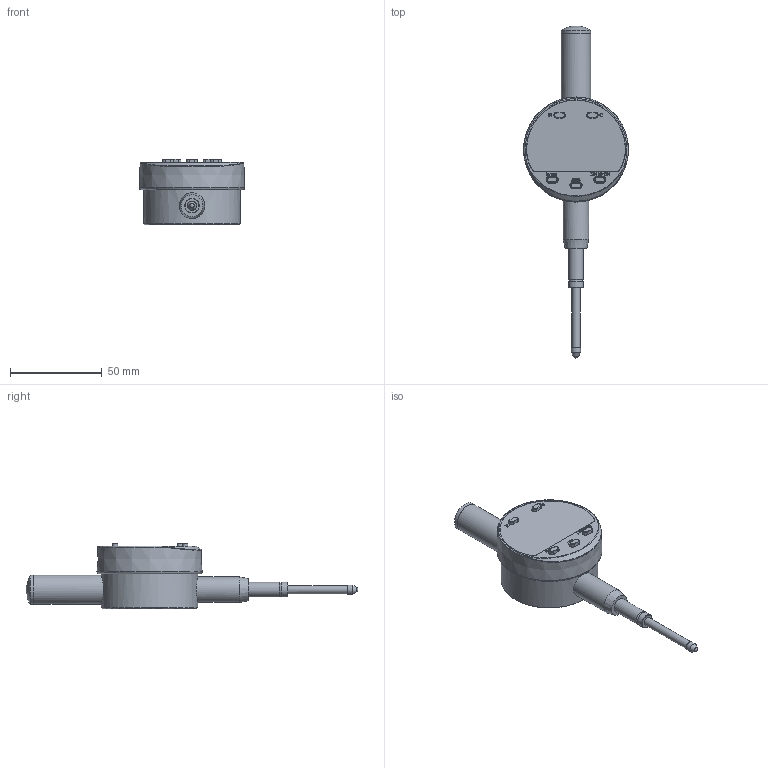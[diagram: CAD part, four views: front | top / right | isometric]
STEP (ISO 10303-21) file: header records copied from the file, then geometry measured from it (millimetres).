
FILE_DESCRIPTION(/* description */ (''),/* implementation_level */ '2;1');
FILE_NAME(/* name */ '量准一寸量表示意图.stp',/* time_stamp */ '2024-05-27T14:16:19+08:00',/* author */ (''),/* organization */ (''),/* preprocessor_version */ 'ST-DEVELOPER v16.7',/* originating_system */ 'SIEMENS PLM Software NX 1919',/* authorisation */ '');
FILE_SCHEMA (('AUTOMOTIVE_DESIGN { 1 0 10303 214 3 1 1 1 }'));
Length unit declared in the file: millimetre
Products named in the file (1): jz65EC77B74fu8
Bounding box: 57.45 x 181.42 x 35.95 mm (x, y, z)
Volume: 93975 mm3; surface area: 26760.1 mm2
Topology: 3 solids, 48 shells, 316 faces, 1541 edges, 1318 vertices
Faces by surface type: plane 159, cylinder 70, cone 53, torus 19, bspline 9, sphere 4, extrusion 2
Full cylindrical faces by diameter (mm): 4.5 x1, 5 x1, 8 x2, 14 x1, 16 x2, 52.8 x1
Entity records: 17943 total; most frequent: CARTESIAN_POINT 6605, ORIENTED_EDGE 2154, EDGE_CURVE 1511, DIRECTION 1456, VERTEX_POINT 1294, B_SPLINE_CURVE_WITH_KNOTS 940, AXIS2_PLACEMENT_3D 567, EDGE_LOOP 397
